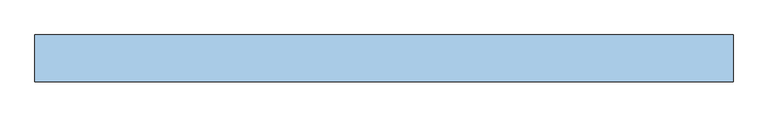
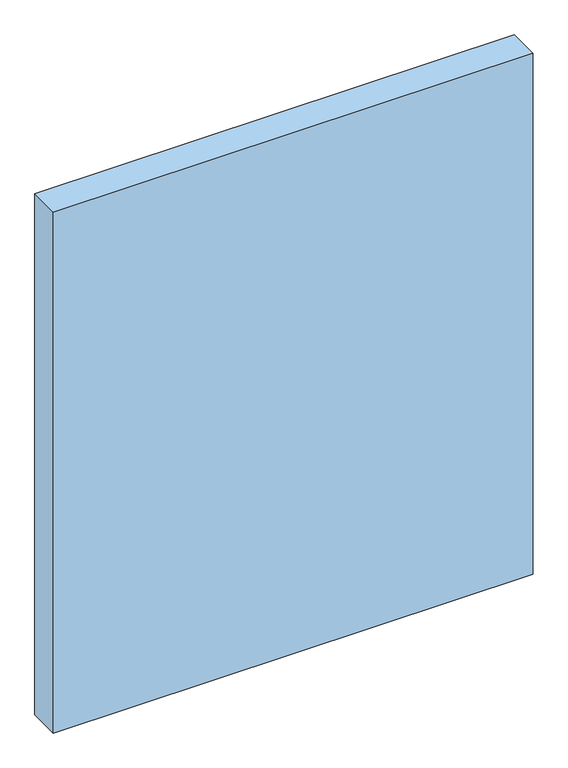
"""IFC4 building model written with IfcOpenShell, lengths in millimetres: window geometry, Dr_Проем-Четверти_окно : ОК."""

from ifc_helpers import new_model, si_unit, frame, origin, place, context, project, spatial, polyline, outline, extrude, source, transform, mapped, element, save


def window_9afb4108(model_context):
    return source(origin(), model_context, "Body", "SweptSolid", [
        extrude(outline(polyline([(1255.0, -50.0), (-985.0, -50.0), (-985.0, 100.0), (1255.0, 100.0), (1255.0, -50.0)])), frame((0.0, 0.0, -60.0), z_axis=(0.0, 0.0, 1.0), x_axis=(1.0, 0.0, 0.0)), (0.0, 0.0, 1.0), 2570.0),
    ])


if __name__ == "__main__":
    model = new_model("IFC4")
    model_context = context("Model", 3, world=origin())
    ifc_project = project(units=[si_unit("LENGTHUNIT", "METRE", prefix="MILLI")], contexts=[model_context])
    site = spatial("IfcSite", under=ifc_project)
    building = spatial("IfcBuilding", under=site)
    placement = place(None, origin())
    window_shape = window_9afb4108(model_context)
    element("IfcWindow", 1, ObjectType="Dr_Проем-Четверти_окно : ОК", at=placement, inside=building, context=model_context, shape_type="MappedRepresentation", body=[
        mapped(window_shape, transform((0.0, 0.0, 0.0), x_axis=(1.0, 0.0, 0.0), y_axis=(0.0, 1.0, 0.0), z_axis=(0.0, 0.0, 1.0))),
    ])
    save(model, "model.ifc")
